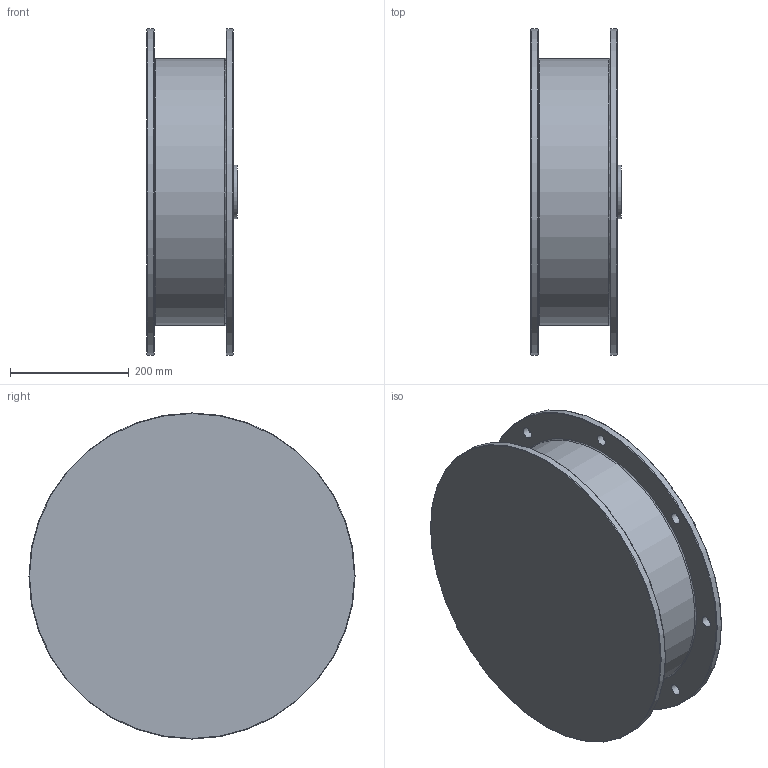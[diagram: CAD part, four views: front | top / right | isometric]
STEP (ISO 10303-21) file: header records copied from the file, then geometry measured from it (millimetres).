
FILE_DESCRIPTION((''),'2;1');
FILE_NAME('D:\PAWEŁ\ZLECENIA\DualSystem\001 Modele\DKAB150_\DK_150_STEP\250M_B5_L145,5.stp','2011-12-19T15:55:11',('Pawe'),(''),'Autodesk Inventor 2009','Autodesk Inventor 2009','');
FILE_SCHEMA(('AUTOMOTIVE_DESIGN { 1 0 10303 214 1 1 1 1 }'));
Length unit declared in the file: millimetre
Products named in the file (1): 250M_B5_L145,5
Bounding box: 152 x 550 x 550 mm (x, y, z)
Volume: 5343391.8 mm3; surface area: 1092728 mm2
Topology: 1 solids, 1 shells, 33 faces, 68 edges, 43 vertices
Faces by surface type: plane 11, bspline 10, cylinder 7, torus 5
Full cylindrical faces by diameter (mm): 90 x1, 438 x1, 450 x2, 550 x2
Entity records: 1045 total; most frequent: CARTESIAN_POINT 348, DIRECTION 132, ORIENTED_EDGE 94, EDGE_LOOP 76, AXIS2_PLACEMENT_3D 61, EDGE_CURVE 47, VERTEX_POINT 43, FACE_BOUND 43
